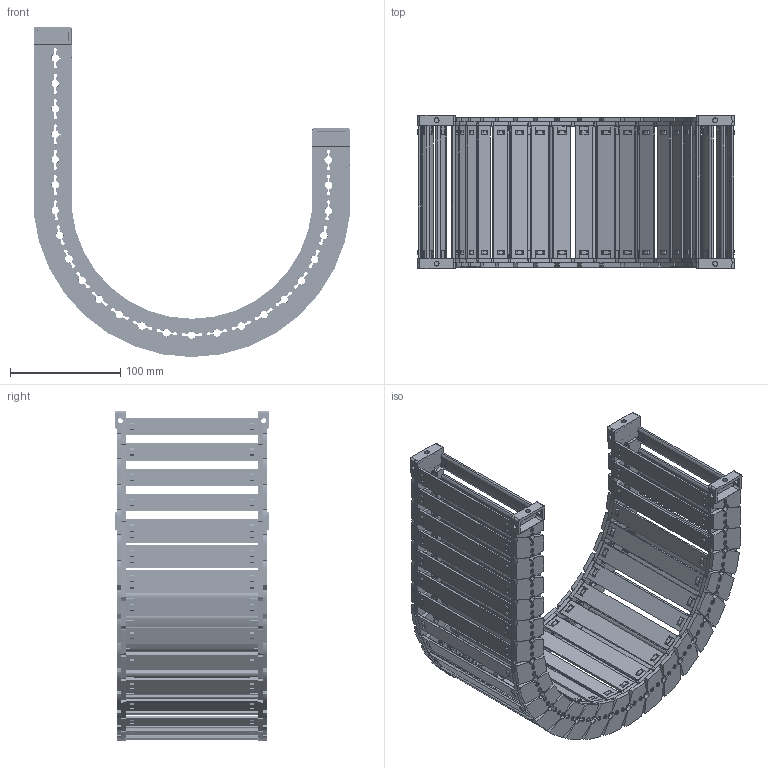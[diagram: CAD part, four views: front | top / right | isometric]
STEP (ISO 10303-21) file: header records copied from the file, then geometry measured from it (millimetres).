
FILE_DESCRIPTION((''),'2;1');
FILE_NAME('JY-28X120-R125_ASM','2026-03-25T19:47:18',('admin'),(''),'CREO PARAMETRIC BY PTC INC, 2021023','CREO PARAMETRIC BY PTC INC, 2021023','');
FILE_SCHEMA(('CONFIG_CONTROL_DESIGN'));
Length unit declared in the file: millimetre
Products named in the file (11): 28XL-L; 25-35XL-YP; 28XL-R; ASM0001_ASM; 28-LTT-A-L; 28-LTT-A-R; 28XL-LTT-A_ASM; 28-LTT-B-L; 28-LTT-B-R; 28XL-LTT-B_ASM; JY-28X120-R125_ASM
Assembly tree (38 placements, depth 3):
  JY-28X120-R125_ASM
    ASM0001_ASM  x24
      28XL-L
      25-35XL-YP
      28XL-R
    28XL-LTT-A_ASM
      28-LTT-A-L
      25-35XL-YP  x2
      28-LTT-A-R
    28XL-LTT-B_ASM
      28-LTT-B-L
      25-35XL-YP  x2
      28-LTT-B-R
Bounding box: 287.57 x 139 x 299.79 mm (x, y, z)
Volume: 584732.3 mm3; surface area: 419246.3 mm2
Topology: 104 solids, 104 shells, 8438 faces, 25084 edges, 16750 vertices
Faces by surface type: plane 5532, cone 1522, cylinder 1210, bspline 174
Entity records: 29143 total; most frequent: CARTESIAN_POINT 9496, ORIENTED_EDGE 4352, DIRECTION 3667, EDGE_CURVE 2176, VERTEX_POINT 1454, VECTOR 1365, LINE 1365, AXIS2_PLACEMENT_3D 1151
